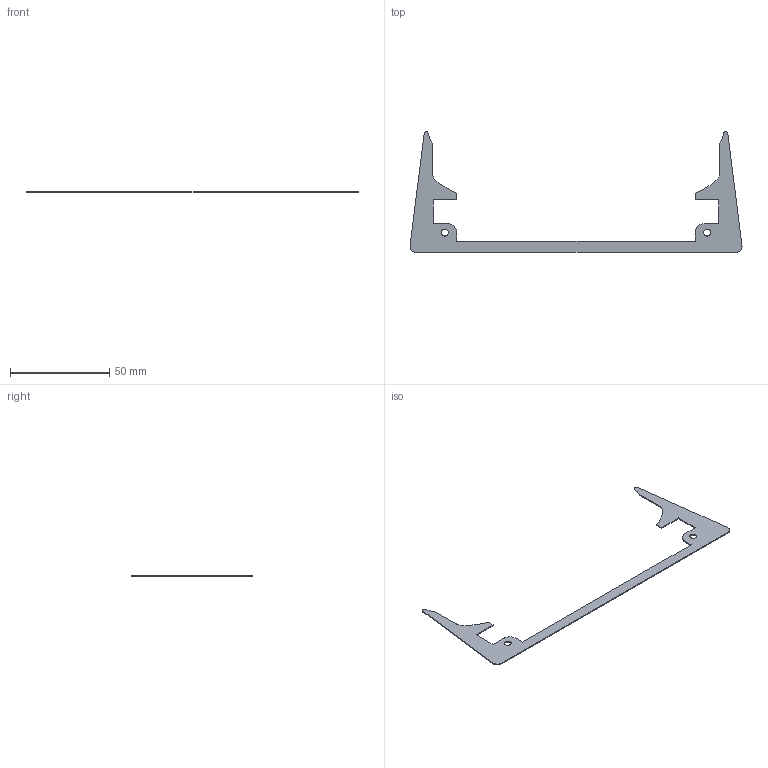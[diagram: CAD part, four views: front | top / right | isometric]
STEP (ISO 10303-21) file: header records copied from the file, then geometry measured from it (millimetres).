
FILE_DESCRIPTION(/* description */ (''),/* implementation_level */ '2;1');
FILE_NAME(/* name */ 'GRIP-2~1',/* time_stamp */ '2015-10-29T17:29:27+09:00',/* author */ (''),/* organization */ (''),/* preprocessor_version */ 'ST-DEVELOPER v15',/* originating_system */ '',/* authorisation */ '');
FILE_SCHEMA (('CONFIG_CONTROL_DESIGN'));
Length unit declared in the file: millimetre
Products named in the file (1): Document
Bounding box: 167.2 x 60.85 x 0.5 mm (x, y, z)
Volume: 997.6 mm3; surface area: 4361.2 mm2
Topology: 1 solids, 1 shells, 32 faces, 90 edges, 60 vertices
Faces by surface type: bspline 30, plane 2
Entity records: 1080 total; most frequent: CARTESIAN_POINT 548, ORIENTED_EDGE 180, EDGE_CURVE 90, VERTEX_POINT 60, EDGE_LOOP 36, ADVANCED_FACE 32, FACE_OUTER_BOUND 32, ORGANIZATION 7
